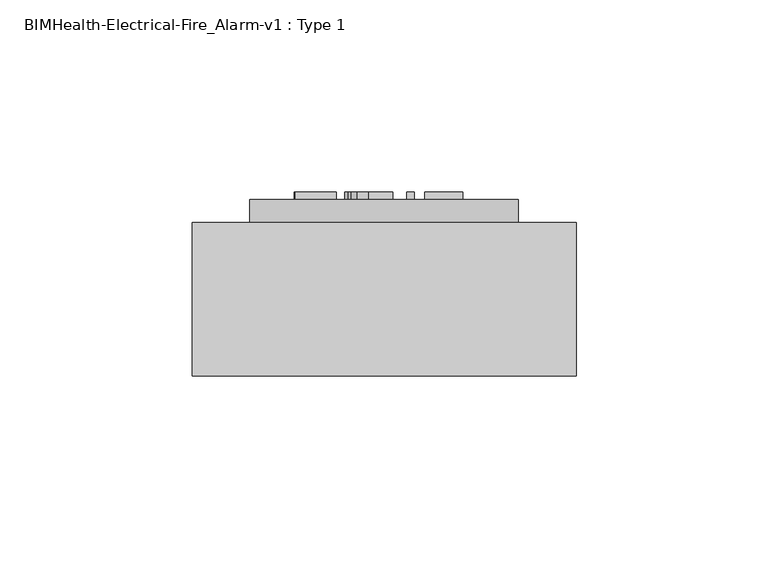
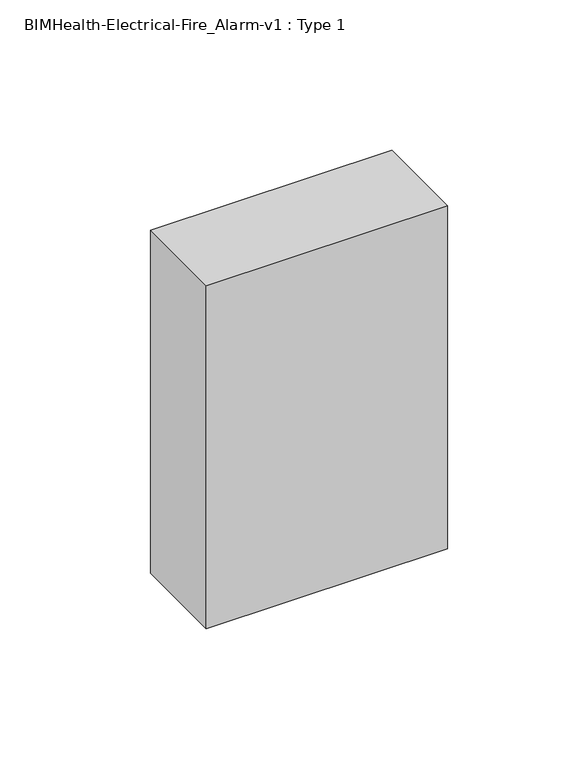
"""IFC4 building model written with IfcOpenShell, lengths in millimetres: proxy geometry, BIMHealth-Electrical-Fire_Alarm-v1 : Type 1."""

import ifcopenshell
import ifcopenshell.guid

model = None  # the IFC model being written
_history = None  # IfcOwnerHistory: only IFC2X3 demands one
_inside = {}  # id of a spatial element -> (the spatial element, [elements in it])
_under = {}  # id of a project, library or spatial element -> (it, [spatial elements below it])
_declared = {}  # id of a project -> (the project, [libraries it declares])
_typed = {}  # id of a type object -> (the type object, [elements of that type])
_made_of = {}  # id of a material, layer set ... -> (it, [elements and type objects made of it])


def new_model(schema):
    """Start an empty IFC model of exactly this schema.

    Asked for "IFC4X3", IfcOpenShell would pick the latest addendum, in which some entities
    have other attributes; the version numbers below select the first issue.
    IFC2X3 requires an IfcOwnerHistory on every rooted entity: one is made here for all.
    """
    global model, _history
    if schema == "IFC4X3":
        model = ifcopenshell.file(schema_version=(4, 3, 0, 0))
    else:
        model = ifcopenshell.file(schema=schema)
    _inside.clear()
    _under.clear()
    _declared.clear()
    _typed.clear()
    _made_of.clear()
    _history = None
    if model.schema == "IFC2X3":
        org = make("IfcOrganization", Name="unknown")
        user = make(
            "IfcPersonAndOrganization",
            ThePerson=make("IfcPerson", FamilyName="unknown"),
            TheOrganization=org,
        )
        app = make(
            "IfcApplication",
            ApplicationDeveloper=org,
            Version="unknown",
            ApplicationFullName="unknown",
            ApplicationIdentifier="unknown",
        )
        _history = make(
            "IfcOwnerHistory",
            OwningUser=user,
            OwningApplication=app,
            ChangeAction="ADDED",
            CreationDate=0,
        )
    return model


def make(cls, **values):
    """One entity of the class cls with the attributes given. An attribute that is None is left unset."""
    return model.create_entity(
        cls, **{name: value for name, value in values.items() if value is not None}
    )


def rooted(cls, **values):
    """An entity with a GlobalId (a new one), such as an element, a storey or a relation."""
    return make(cls, GlobalId=ifcopenshell.guid.new(), OwnerHistory=_history, **values)


def si_unit(unit_type, name, prefix=None):
    """IfcSIUnit, for example si_unit("LENGTHUNIT", "METRE", prefix="MILLI")."""
    return make("IfcSIUnit", UnitType=unit_type, Prefix=prefix, Name=name)


def assignment(units):
    """IfcUnitAssignment: the units of a project."""
    return None if units is None else make("IfcUnitAssignment", Units=units)


def point(xyz):
    """IfcCartesianPoint."""
    return None if xyz is None else make("IfcCartesianPoint", Coordinates=xyz)


def direction(xyz):
    """IfcDirection."""
    return None if xyz is None else make("IfcDirection", DirectionRatios=xyz)


def frame(location, z_axis=None, x_axis=None):
    """IfcAxis2Placement3D, a coordinate frame: its origin and axes. An axis left out is left unset."""
    return make(
        "IfcAxis2Placement3D",
        Location=point(location),
        Axis=direction(z_axis),
        RefDirection=direction(x_axis),
    )


def frame_2d(location, x_axis=None):
    """IfcAxis2Placement2D, a coordinate frame in the plane: its origin and x axis."""
    return make(
        "IfcAxis2Placement2D", Location=point(location), RefDirection=direction(x_axis)
    )


def origin():
    """The frame at (0, 0, 0) with its axes left unset."""
    return frame((0.0, 0.0, 0.0))


def place(relative_to, where):
    """IfcLocalPlacement: puts the frame where relative to a parent placement (None: the world)."""
    return make(
        "IfcLocalPlacement", PlacementRelTo=relative_to, RelativePlacement=where
    )


def context(
    kind, dimensions, precision=None, world=None, true_north=None, identifier=None
):
    """IfcGeometricRepresentationContext, for example the 3D "Model" context."""
    return make(
        "IfcGeometricRepresentationContext",
        ContextIdentifier=identifier,
        ContextType=kind,
        CoordinateSpaceDimension=dimensions,
        Precision=precision,
        WorldCoordinateSystem=world,
        TrueNorth=true_north,
    )


def project(units=None, contexts=None):
    """IfcProject with its units and contexts."""
    return rooted(
        "IfcProject",
        Name="project",
        RepresentationContexts=contexts,
        UnitsInContext=assignment(units),
    )


def spatial(cls, under=None, at=None, **own):
    """A site, building, storey or space (cls), placed at a placement, below another one or the project."""
    s = rooted(cls, ObjectPlacement=at, **own)
    if under is not None:
        _under.setdefault(under.id(), (under, []))[1].append(s)
    return s


def polyline(points):
    """IfcPolyline through the points."""
    return make("IfcPolyline", Points=[point(p) for p in points])


def circle_curve(where, radius):
    """IfcCircle in the frame where."""
    return make("IfcCircle", Position=where, Radius=radius)


def trimmed(basis, trim1, trim2, sense, master):
    """IfcTrimmedCurve: the piece of a basis curve between two trims."""
    return make(
        "IfcTrimmedCurve",
        BasisCurve=basis,
        Trim1=trim1,
        Trim2=trim2,
        SenseAgreement=sense,
        MasterRepresentation=master,
    )


def segment(curve, same_sense, transition):
    """IfcCompositeCurveSegment."""
    return make(
        "IfcCompositeCurveSegment",
        Transition=transition,
        SameSense=same_sense,
        ParentCurve=curve,
    )


def composite_curve(segments, self_intersect=None):
    """IfcCompositeCurve: segments joined end to end."""
    return make("IfcCompositeCurve", Segments=segments, SelfIntersect=self_intersect)


def outline(outer, holes=None, kind="AREA"):
    """IfcArbitraryClosedProfileDef: a profile drawn as a closed curve; with holes, ...WithVoids."""
    if holes is None:
        return make("IfcArbitraryClosedProfileDef", ProfileType=kind, OuterCurve=outer)
    return make(
        "IfcArbitraryProfileDefWithVoids",
        ProfileType=kind,
        OuterCurve=outer,
        InnerCurves=holes,
    )


def extrude(swept, where, along, depth):
    """IfcExtrudedAreaSolid: the profile swept, set in the frame where, extruded along a direction by depth."""
    return make(
        "IfcExtrudedAreaSolid",
        SweptArea=swept,
        Position=where,
        ExtrudedDirection=direction(along),
        Depth=depth,
    )


def shape(context_of_items, identifier, shape_type, items):
    """IfcShapeRepresentation: the items that make up one representation, for example the "Body"."""
    return make(
        "IfcShapeRepresentation",
        ContextOfItems=context_of_items,
        RepresentationIdentifier=identifier,
        RepresentationType=shape_type,
        Items=items,
    )


def source(mapping_origin, context_of_items, identifier, shape_type, items):
    """IfcRepresentationMap: a shape defined once, which mapped items show again and again."""
    return make(
        "IfcRepresentationMap",
        MappingOrigin=mapping_origin,
        MappedRepresentation=shape(context_of_items, identifier, shape_type, items),
    )


def transform(
    local_origin,
    x_axis=None,
    y_axis=None,
    z_axis=None,
    scale=None,
    scale2=None,
    scale3=None,
    uniform=True,
):
    """IfcCartesianTransformationOperator3D, or its non-uniform kind. x_axis, y_axis, z_axis: its Axis1, 2, 3."""
    if uniform:
        return make(
            "IfcCartesianTransformationOperator3D",
            Axis1=direction(x_axis),
            Axis2=direction(y_axis),
            LocalOrigin=point(local_origin),
            Scale=scale,
            Axis3=direction(z_axis),
        )
    return make(
        "IfcCartesianTransformationOperator3DnonUniform",
        Axis1=direction(x_axis),
        Axis2=direction(y_axis),
        LocalOrigin=point(local_origin),
        Scale=scale,
        Axis3=direction(z_axis),
        Scale2=scale2,
        Scale3=scale3,
    )


def mapped(mapping_source, mapping_target):
    """IfcMappedItem: shows the shape of a source again, moved by a transform."""
    return make(
        "IfcMappedItem", MappingSource=mapping_source, MappingTarget=mapping_target
    )


def made_of(thing, what):
    """Note that an element or type object is made of a material, layer set ...; save() writes the relation."""
    if what is not None:
        _made_of.setdefault(what.id(), (what, []))[1].append(thing)
    return thing


def element(
    cls,
    number,
    at=None,
    inside=None,
    cuts=None,
    type_object=None,
    material=None,
    context=None,
    identifier="Body",
    shape_type=None,
    held_by="IfcProductDefinitionShape",
    body=None,
    shapes=None,
    **own,
):
    """One element of the class cls, such as IfcWall. Its Tag is "e" and its number.

    at: its placement. inside: the storey or other place that contains it. cuts: it is an
    opening in that element (IfcRelVoidsElement). A single representation is given by context,
    identifier, shape_type and body (its items); several are given by shapes. held_by: the class
    of the entity that holds the representations. save() writes the other relations.
    """
    e = rooted(cls, Tag="e%d" % number, ObjectPlacement=at, **own)
    if body is not None:
        shapes = [shape(context, identifier, shape_type, body)]
    if shapes is not None:
        e.Representation = make(held_by, Representations=shapes)
    if inside is not None:
        _inside.setdefault(inside.id(), (inside, []))[1].append(e)
    if cuts is not None:
        rooted(
            "IfcRelVoidsElement", RelatingBuildingElement=cuts, RelatedOpeningElement=e
        )
    if type_object is not None:
        _typed.setdefault(type_object.id(), (type_object, []))[1].append(e)
    return made_of(e, material)


def aggregate(whole, parts):
    """IfcRelAggregates: a whole, such as a stair, and the parts it consists of."""
    return rooted("IfcRelAggregates", RelatingObject=whole, RelatedObjects=parts)


def save(model, path):
    """Write the relations noted so far, then the file.

    IfcRelAggregates (storeys below a building ...), IfcRelContainedInSpatialStructure (elements
    in a storey), IfcRelDefinesByType, IfcRelAssociatesMaterial and IfcRelDeclares: one each for
    every whole, place, type object, material and project.
    """
    for whole, parts in _under.values():
        aggregate(whole, parts)
    for where, things in _inside.values():
        rooted(
            "IfcRelContainedInSpatialStructure",
            RelatedElements=things,
            RelatingStructure=where,
        )
    for kind, things in _typed.values():
        rooted("IfcRelDefinesByType", RelatedObjects=things, RelatingType=kind)
    for what, things in _made_of.values():
        rooted("IfcRelAssociatesMaterial", RelatedObjects=things, RelatingMaterial=what)
    for by, libraries in _declared.values():
        rooted("IfcRelDeclares", RelatingContext=by, RelatedDefinitions=libraries)
    model.write(path)


def bimhealth_electrical_fire_alarm_v1_type_1_df29756c(model_context):
    return source(origin(), model_context, "Body", "SweptSolid", [
        extrude(outline(composite_curve([segment(trimmed(circle_curve(frame_2d((1232.5, 175.0)), 20.0), [point((1232.5, 195.0))], [point((1232.5, 155.0))], False, "CARTESIAN"), True, "CONTINUOUS"), segment(trimmed(circle_curve(frame_2d((1232.5, 175.0)), 20.0), [point((1232.5, 155.0))], [point((1232.5, 195.0))], False, "CARTESIAN"), True, "CONTINUOUS")], self_intersect=False)), frame((0.0, 115.0, 0.0), z_axis=(0.0, 1.0, 0.0), x_axis=(0.0, 0.0, 1.0)), (0.0, 0.0, 1.0), 5.9487595),
        extrude(outline(composite_curve([segment(trimmed(circle_curve(frame_2d((1301.25, 175.0)), 35.0), [point((1301.25, 210.0))], [point((1301.25, 140.0))], False, "CARTESIAN"), True, "CONTINUOUS"), segment(trimmed(circle_curve(frame_2d((1301.25, 175.0)), 35.0), [point((1301.25, 140.0))], [point((1301.25, 210.0))], False, "CARTESIAN"), True, "CONTINUOUS")], self_intersect=False)), frame((0.0, 115.0, 0.0), z_axis=(0.0, 1.0, 0.0), x_axis=(0.0, 0.0, 1.0)), (0.0, 0.0, 1.0), 5.9487595),
        extrude(outline(polyline([(125.0, 75.0), (125.0, 115.0), (225.0, 115.0), (225.0, 75.0), (125.0, 75.0)])), frame((0.0, 0.0, 1200.0), z_axis=(0.0, 0.0, 1.0), x_axis=(1.0, 0.0, 0.0)), (0.0, 0.0, 1.0), 150.0),
        extrude(outline(polyline([(1293.5130847, 195.516128), (1308.2823154, 195.516128), (1308.2823154, 185.5930511), (1306.4361616, 185.5930511), (1306.4361616, 193.6699741), (1302.0515462, 193.6699741), (1302.0515462, 186.7468972), (1300.2053924, 186.7468972), (1300.2053924, 193.6699741), (1293.5130847, 193.6699741), (1293.5130847, 195.516128)])), frame((0.0, 120.9487595, 0.0), z_axis=(0.0, 1.0, 0.0), x_axis=(0.0, 0.0, 1.0)), (0.0, 0.0, 1.0), 2.0),
        extrude(outline(polyline([(180.9776664, 122.9487595), (182.8238203, 122.9487595), (182.8238203, 120.9487595), (180.9776664, 120.9487595), (180.9776664, 122.9487595)])), frame((0.0, 0.0, 1293.5130847), z_axis=(0.0, 0.0, 1.0), x_axis=(1.0, 0.0, 0.0)), (0.0, 0.0, 1.0), 14.7692308),
        extrude(outline(polyline([(1293.5130847, 177.2853588), (1308.2823154, 177.2853588), (1308.2823154, 170.9211761), (1307.8838779, 167.9662482), (1306.4740222, 166.3508636), (1304.2402481, 165.7468972), (1301.5791904, 166.7474982), (1300.2053924, 169.8394453), (1297.5154885, 167.2937722), (1293.5130847, 164.8310318), (1293.5130847, 166.9764645), (1296.5743828, 168.8983395), (1298.6008251, 170.2865607), (1299.9746231, 175.4392049), (1293.5130847, 175.4392049), (1293.5130847, 177.2853588)]), holes=[polyline([(1301.820777, 175.4392049), (1301.820777, 171.3069934), (1302.0821953, 169.1994213), (1305.7979404, 168.3737001), (1306.4361616, 170.8418491), (1306.4361616, 175.4392049), (1301.820777, 175.4392049)])]), frame((0.0, 120.9487595, 0.0), z_axis=(0.0, 1.0, 0.0), x_axis=(0.0, 0.0, 1.0)), (0.0, 0.0, 1.0), 2.0),
        extrude(outline(polyline([(1293.5130847, 162.516128), (1308.2823154, 162.516128), (1308.2823154, 151.9007434), (1306.4361616, 151.9007434), (1306.4361616, 160.6699741), (1302.0515462, 160.6699741), (1302.0515462, 152.3622818), (1300.2053924, 152.3622818), (1300.2053924, 160.6699741), (1295.3592385, 160.6699741), (1295.3592385, 151.6699741), (1293.5130847, 151.6699741), (1293.5130847, 162.516128)])), frame((0.0, 120.9487595, 0.0), z_axis=(0.0, 1.0, 0.0), x_axis=(0.0, 0.0, 1.0)), (0.0, 0.0, 1.0), 2.0),
    ])


if __name__ == "__main__":
    model = new_model("IFC4")
    model_context = context("Model", 3, world=origin())
    ifc_project = project(units=[si_unit("LENGTHUNIT", "METRE", prefix="MILLI")], contexts=[model_context])
    site = spatial("IfcSite", under=ifc_project)
    building = spatial("IfcBuilding", under=site)
    placement = place(None, origin())
    bimhealth_electrical_fire_alarm_v1_type_1_shape = bimhealth_electrical_fire_alarm_v1_type_1_df29756c(model_context)
    element("IfcBuildingElementProxy", 1, Name="BIMHealth-Electrical-Fire_Alarm-v1 : Type 1", ObjectType="BIMHealth-Electrical-Fire_Alarm-v1 : Type 1", at=placement, inside=building, context=model_context, shape_type="MappedRepresentation", body=[
        mapped(bimhealth_electrical_fire_alarm_v1_type_1_shape, transform((0.0, 0.0, 0.0), x_axis=(1.0, 0.0, 0.0), y_axis=(0.0, 1.0, 0.0), z_axis=(0.0, 0.0, 1.0))),
    ])
    save(model, "model.ifc")
